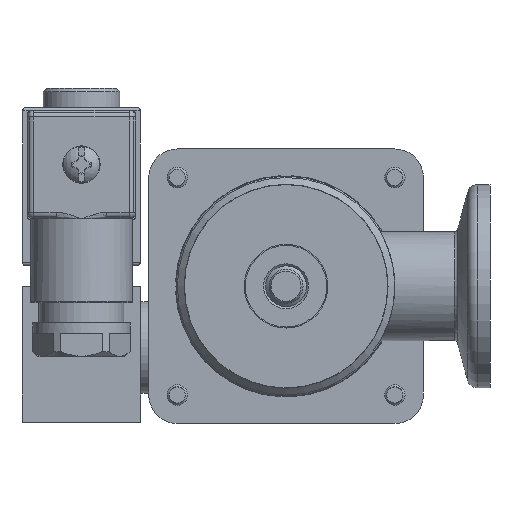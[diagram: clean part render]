
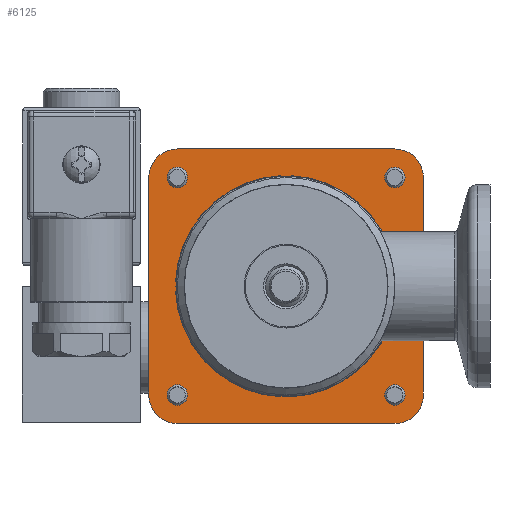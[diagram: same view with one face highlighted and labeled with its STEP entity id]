
A CAD part, front view. The second image highlights one B-rep face of the part: STEP entity #6125.
In plain terms, the highlighted planar face has unit normal (0, -1, 0) as drawn and (0, 1, 0) by its records, which use the part's own axes.
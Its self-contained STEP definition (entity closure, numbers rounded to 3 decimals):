
#2400=LINE('',#19268,#3316);
#2404=LINE('',#19277,#3320);
#2408=LINE('',#19289,#3324);
#2412=LINE('',#19298,#3328);
#2416=LINE('',#19310,#3332);
#2420=LINE('',#19319,#3336);
#2424=LINE('',#19331,#3340);
#2427=LINE('',#19347,#3343);
#2431=LINE('',#19357,#3347);
#2434=LINE('',#19365,#3350);
#2437=LINE('',#19373,#3353);
#2439=LINE('',#19378,#3355);
#3316=VECTOR('',#15976,1.);
#3320=VECTOR('',#15982,1.);
#3324=VECTOR('',#15994,1.);
#3328=VECTOR('',#16000,1.);
#3332=VECTOR('',#16012,1.);
#3336=VECTOR('',#16018,1.);
#3340=VECTOR('',#16030,1.);
#3343=VECTOR('',#16053,1.);
#3347=VECTOR('',#16063,1.);
#3350=VECTOR('',#16072,1.);
#3353=VECTOR('',#16081,1.);
#3355=VECTOR('',#16089,1.);
#5684=PLANE('',#14753);
#6125=ADVANCED_FACE('',(#7078,#7079,#7080,#7081,#7082,#7083),#5684,.T.);
#7078=FACE_BOUND('',#7622,.T.);
#7079=FACE_BOUND('',#7623,.T.);
#7080=FACE_BOUND('',#7624,.T.);
#7081=FACE_BOUND('',#7625,.T.);
#7082=FACE_BOUND('',#7626,.T.);
#7083=FACE_BOUND('',#7627,.T.);
#7622=EDGE_LOOP('',(#8675));
#7623=EDGE_LOOP('',(#8676));
#7624=EDGE_LOOP('',(#8677));
#7625=EDGE_LOOP('',(#8678));
#7626=EDGE_LOOP('',(#8679,#8680,#8681,#8682,#8683,#8684,#8685,#8686));
#7627=EDGE_LOOP('',(#8687,#8688,#8689,#8690,#8691,#8692,#8693,#8694,#8695,
#8696,#8697,#8698,#8699,#8700,#8701,#8702));
#8675=ORIENTED_EDGE('',*,*,#12732,.F.);
#8676=ORIENTED_EDGE('',*,*,#12733,.F.);
#8677=ORIENTED_EDGE('',*,*,#12734,.F.);
#8678=ORIENTED_EDGE('',*,*,#12735,.F.);
#8679=ORIENTED_EDGE('',*,*,#12715,.T.);
#8680=ORIENTED_EDGE('',*,*,#12718,.T.);
#8681=ORIENTED_EDGE('',*,*,#12720,.T.);
#8682=ORIENTED_EDGE('',*,*,#12722,.T.);
#8683=ORIENTED_EDGE('',*,*,#12724,.T.);
#8684=ORIENTED_EDGE('',*,*,#12726,.T.);
#8685=ORIENTED_EDGE('',*,*,#12728,.T.);
#8686=ORIENTED_EDGE('',*,*,#12729,.T.);
#8687=ORIENTED_EDGE('',*,*,#12671,.T.);
#8688=ORIENTED_EDGE('',*,*,#12674,.T.);
#8689=ORIENTED_EDGE('',*,*,#12713,.T.);
#8690=ORIENTED_EDGE('',*,*,#12678,.T.);
#8691=ORIENTED_EDGE('',*,*,#12681,.T.);
#8692=ORIENTED_EDGE('',*,*,#12684,.T.);
#8693=ORIENTED_EDGE('',*,*,#12711,.T.);
#8694=ORIENTED_EDGE('',*,*,#12688,.T.);
#8695=ORIENTED_EDGE('',*,*,#12691,.T.);
#8696=ORIENTED_EDGE('',*,*,#12694,.T.);
#8697=ORIENTED_EDGE('',*,*,#12709,.T.);
#8698=ORIENTED_EDGE('',*,*,#12698,.T.);
#8699=ORIENTED_EDGE('',*,*,#12701,.T.);
#8700=ORIENTED_EDGE('',*,*,#12704,.T.);
#8701=ORIENTED_EDGE('',*,*,#12707,.T.);
#8702=ORIENTED_EDGE('',*,*,#12731,.T.);
#11578=VERTEX_POINT('',#19256);
#11581=VERTEX_POINT('',#19261);
#11583=VERTEX_POINT('',#19267);
#11584=VERTEX_POINT('',#19271);
#11587=VERTEX_POINT('',#19276);
#11589=VERTEX_POINT('',#19282);
#11591=VERTEX_POINT('',#19288);
#11592=VERTEX_POINT('',#19292);
#11595=VERTEX_POINT('',#19297);
#11597=VERTEX_POINT('',#19303);
#11599=VERTEX_POINT('',#19309);
#11600=VERTEX_POINT('',#19313);
#11603=VERTEX_POINT('',#19318);
#11605=VERTEX_POINT('',#19324);
#11607=VERTEX_POINT('',#19330);
#11609=VERTEX_POINT('',#19336);
#11610=VERTEX_POINT('',#19346);
#11611=VERTEX_POINT('',#19348);
#11612=VERTEX_POINT('',#19352);
#11613=VERTEX_POINT('',#19356);
#11614=VERTEX_POINT('',#19360);
#11615=VERTEX_POINT('',#19364);
#11616=VERTEX_POINT('',#19368);
#11617=VERTEX_POINT('',#19372);
#11618=VERTEX_POINT('',#19381);
#11619=VERTEX_POINT('',#19383);
#11620=VERTEX_POINT('',#19385);
#11621=VERTEX_POINT('',#19387);
#12671=EDGE_CURVE('',#11578,#11581,#14179,.T.);
#12674=EDGE_CURVE('',#11581,#11583,#2400,.T.);
#12678=EDGE_CURVE('',#11584,#11587,#2404,.T.);
#12681=EDGE_CURVE('',#11587,#11589,#14181,.T.);
#12684=EDGE_CURVE('',#11589,#11591,#2408,.T.);
#12688=EDGE_CURVE('',#11592,#11595,#2412,.T.);
#12691=EDGE_CURVE('',#11595,#11597,#14183,.T.);
#12694=EDGE_CURVE('',#11597,#11599,#2416,.T.);
#12698=EDGE_CURVE('',#11600,#11603,#2420,.T.);
#12701=EDGE_CURVE('',#11603,#11605,#14185,.T.);
#12704=EDGE_CURVE('',#11605,#11607,#2424,.T.);
#12707=EDGE_CURVE('',#11607,#11609,#14187,.T.);
#12709=EDGE_CURVE('',#11599,#11600,#14189,.T.);
#12711=EDGE_CURVE('',#11591,#11592,#14191,.T.);
#12713=EDGE_CURVE('',#11583,#11584,#14193,.T.);
#12715=EDGE_CURVE('',#11611,#11610,#2427,.T.);
#12718=EDGE_CURVE('',#11610,#11612,#14194,.T.);
#12720=EDGE_CURVE('',#11612,#11613,#2431,.T.);
#12722=EDGE_CURVE('',#11613,#11614,#14195,.T.);
#12724=EDGE_CURVE('',#11614,#11615,#2434,.T.);
#12726=EDGE_CURVE('',#11615,#11616,#14196,.T.);
#12728=EDGE_CURVE('',#11616,#11617,#2437,.T.);
#12729=EDGE_CURVE('',#11617,#11611,#14197,.T.);
#12731=EDGE_CURVE('',#11609,#11578,#2439,.T.);
#12732=EDGE_CURVE('',#11618,#11618,#14198,.T.);
#12733=EDGE_CURVE('',#11619,#11619,#14199,.T.);
#12734=EDGE_CURVE('',#11620,#11620,#14200,.T.);
#12735=EDGE_CURVE('',#11621,#11621,#14201,.T.);
#14179=CIRCLE('',#14709,16.1);
#14181=CIRCLE('',#14714,16.1);
#14183=CIRCLE('',#14719,16.1);
#14185=CIRCLE('',#14724,16.1);
#14187=CIRCLE('',#14728,16.275);
#14189=CIRCLE('',#14730,16.275);
#14191=CIRCLE('',#14732,16.275);
#14193=CIRCLE('',#14734,16.275);
#14194=CIRCLE('',#14737,4.2);
#14195=CIRCLE('',#14740,4.2);
#14196=CIRCLE('',#14743,4.2);
#14197=CIRCLE('',#14746,4.2);
#14198=CIRCLE('',#14749,1.5);
#14199=CIRCLE('',#14750,1.5);
#14200=CIRCLE('',#14751,1.5);
#14201=CIRCLE('',#14752,1.5);
#14709=AXIS2_PLACEMENT_3D('',#19262,#15970,#15971);
#14714=AXIS2_PLACEMENT_3D('',#19283,#15988,#15989);
#14719=AXIS2_PLACEMENT_3D('',#19304,#16006,#16007);
#14724=AXIS2_PLACEMENT_3D('',#19325,#16024,#16025);
#14728=AXIS2_PLACEMENT_3D('',#19337,#16036,#16037);
#14730=AXIS2_PLACEMENT_3D('',#19339,#16040,#16041);
#14732=AXIS2_PLACEMENT_3D('',#19341,#16044,#16045);
#14734=AXIS2_PLACEMENT_3D('',#19343,#16048,#16049);
#14737=AXIS2_PLACEMENT_3D('',#19353,#16058,#16059);
#14740=AXIS2_PLACEMENT_3D('',#19361,#16067,#16068);
#14743=AXIS2_PLACEMENT_3D('',#19369,#16076,#16077);
#14746=AXIS2_PLACEMENT_3D('',#19375,#16084,#16085);
#14749=AXIS2_PLACEMENT_3D('',#19380,#16092,#16093);
#14750=AXIS2_PLACEMENT_3D('',#19382,#16094,#16095);
#14751=AXIS2_PLACEMENT_3D('',#19384,#16096,#16097);
#14752=AXIS2_PLACEMENT_3D('',#19386,#16098,#16099);
#14753=AXIS2_PLACEMENT_3D('',#19388,#16100,#16101);
#15970=DIRECTION('',(0.,-1.,0.));
#15971=DIRECTION('',(0.,0.,1.));
#15976=DIRECTION('',(0.,0.,1.));
#15982=DIRECTION('',(1.,0.,0.));
#15988=DIRECTION('',(0.,-1.,0.));
#15989=DIRECTION('',(0.,0.,1.));
#15994=DIRECTION('',(-1.,0.,0.));
#16000=DIRECTION('',(0.,0.,1.));
#16006=DIRECTION('',(0.,-1.,0.));
#16007=DIRECTION('',(0.,0.,1.));
#16012=DIRECTION('',(0.,0.,-1.));
#16018=DIRECTION('',(-1.,0.,0.));
#16024=DIRECTION('',(0.,-1.,0.));
#16025=DIRECTION('',(0.,0.,1.));
#16030=DIRECTION('',(1.,0.,0.));
#16036=DIRECTION('',(0.,-1.,0.));
#16037=DIRECTION('',(0.,0.,1.));
#16040=DIRECTION('',(0.,-1.,0.));
#16041=DIRECTION('',(0.,0.,1.));
#16044=DIRECTION('',(0.,-1.,0.));
#16045=DIRECTION('',(0.,0.,1.));
#16048=DIRECTION('',(0.,-1.,0.));
#16049=DIRECTION('',(0.,0.,1.));
#16053=DIRECTION('',(0.,0.,-1.));
#16058=DIRECTION('',(0.,1.,0.));
#16059=DIRECTION('',(1.,0.,0.));
#16063=DIRECTION('',(-1.,0.,0.));
#16067=DIRECTION('',(0.,1.,0.));
#16068=DIRECTION('',(0.,0.,-1.));
#16072=DIRECTION('',(0.,0.,1.));
#16076=DIRECTION('',(0.,1.,0.));
#16077=DIRECTION('',(-1.,0.,0.));
#16081=DIRECTION('',(1.,0.,0.));
#16084=DIRECTION('',(0.,1.,0.));
#16085=DIRECTION('',(0.,0.,1.));
#16089=DIRECTION('',(0.,0.,-1.));
#16092=DIRECTION('',(0.,1.,0.));
#16093=DIRECTION('',(-1.,0.,0.));
#16094=DIRECTION('',(0.,1.,0.));
#16095=DIRECTION('',(-1.,0.,0.));
#16096=DIRECTION('',(0.,1.,0.));
#16097=DIRECTION('',(-1.,0.,0.));
#16098=DIRECTION('',(0.,1.,0.));
#16099=DIRECTION('',(-1.,0.,0.));
#16100=DIRECTION('',(0.,1.,0.));
#16101=DIRECTION('',(0.,0.,1.));
#19256=CARTESIAN_POINT('',(0.75,6.,16.083));
#19261=CARTESIAN_POINT('',(-0.75,6.,16.083));
#19262=CARTESIAN_POINT('',(0.,6.,0.));
#19267=CARTESIAN_POINT('',(-0.75,6.,16.258));
#19268=CARTESIAN_POINT('',(-0.75,6.,16.083));
#19271=CARTESIAN_POINT('',(-16.258,6.,0.75));
#19276=CARTESIAN_POINT('',(-16.083,6.,0.75));
#19277=CARTESIAN_POINT('',(-16.258,6.,0.75));
#19282=CARTESIAN_POINT('',(-16.083,6.,-0.75));
#19283=CARTESIAN_POINT('',(0.,6.,0.));
#19288=CARTESIAN_POINT('',(-16.258,6.,-0.75));
#19289=CARTESIAN_POINT('',(-16.083,6.,-0.75));
#19292=CARTESIAN_POINT('',(-0.75,6.,-16.258));
#19297=CARTESIAN_POINT('',(-0.75,6.,-16.083));
#19298=CARTESIAN_POINT('',(-0.75,6.,-16.258));
#19303=CARTESIAN_POINT('',(0.75,6.,-16.083));
#19304=CARTESIAN_POINT('',(0.,6.,0.));
#19309=CARTESIAN_POINT('',(0.75,6.,-16.258));
#19310=CARTESIAN_POINT('',(0.75,6.,-16.083));
#19313=CARTESIAN_POINT('',(16.258,6.,-0.75));
#19318=CARTESIAN_POINT('',(16.083,6.,-0.75));
#19319=CARTESIAN_POINT('',(16.258,6.,-0.75));
#19324=CARTESIAN_POINT('',(16.083,6.,0.75));
#19325=CARTESIAN_POINT('',(0.,6.,0.));
#19330=CARTESIAN_POINT('',(16.258,6.,0.75));
#19331=CARTESIAN_POINT('',(16.083,6.,0.75));
#19336=CARTESIAN_POINT('',(0.75,6.,16.258));
#19337=CARTESIAN_POINT('',(0.,6.,0.));
#19339=CARTESIAN_POINT('',(0.,6.,0.));
#19341=CARTESIAN_POINT('',(0.,6.,0.));
#19343=CARTESIAN_POINT('',(0.,6.,0.));
#19346=CARTESIAN_POINT('',(20.2,6.,-16.));
#19347=CARTESIAN_POINT('',(20.2,6.,16.));
#19348=CARTESIAN_POINT('',(20.2,6.,16.));
#19352=CARTESIAN_POINT('',(16.,6.,-20.2));
#19353=CARTESIAN_POINT('',(16.,6.,-16.));
#19356=CARTESIAN_POINT('',(-16.,6.,-20.2));
#19357=CARTESIAN_POINT('',(16.,6.,-20.2));
#19360=CARTESIAN_POINT('',(-20.2,6.,-16.));
#19361=CARTESIAN_POINT('',(-16.,6.,-16.));
#19364=CARTESIAN_POINT('',(-20.2,6.,16.));
#19365=CARTESIAN_POINT('',(-20.2,6.,-16.));
#19368=CARTESIAN_POINT('',(-16.,6.,20.2));
#19369=CARTESIAN_POINT('',(-16.,6.,16.));
#19372=CARTESIAN_POINT('',(16.,6.,20.2));
#19373=CARTESIAN_POINT('',(-16.,6.,20.2));
#19375=CARTESIAN_POINT('',(16.,6.,16.));
#19378=CARTESIAN_POINT('',(0.75,6.,16.258));
#19380=CARTESIAN_POINT('',(-16.,6.,16.));
#19381=CARTESIAN_POINT('',(-17.5,6.,16.));
#19382=CARTESIAN_POINT('',(16.,6.,-16.));
#19383=CARTESIAN_POINT('',(14.5,6.,-16.));
#19384=CARTESIAN_POINT('',(-16.,6.,-16.));
#19385=CARTESIAN_POINT('',(-17.5,6.,-16.));
#19386=CARTESIAN_POINT('',(16.,6.,16.));
#19387=CARTESIAN_POINT('',(14.5,6.,16.));
#19388=CARTESIAN_POINT('',(16.,6.,-16.));
